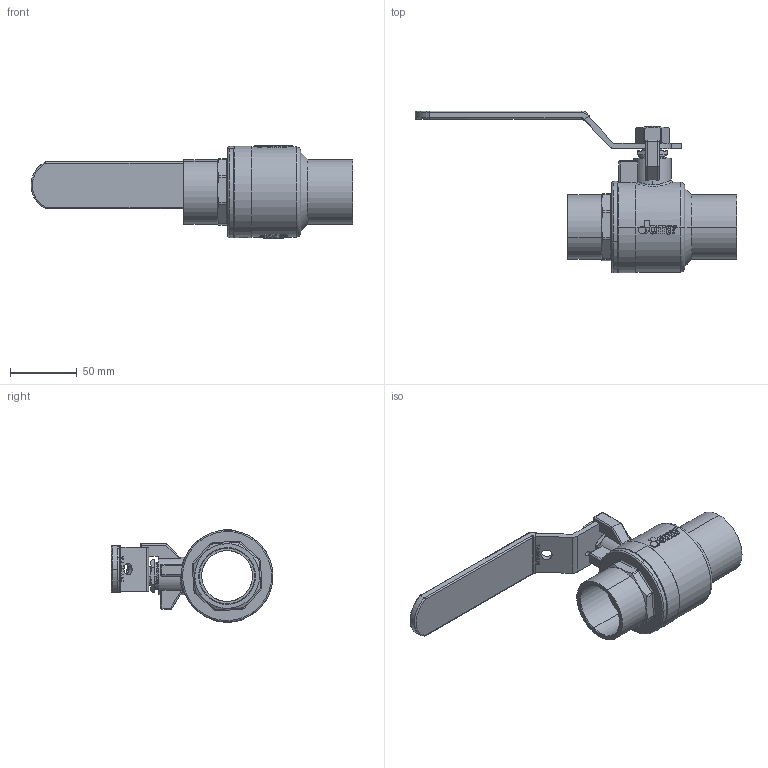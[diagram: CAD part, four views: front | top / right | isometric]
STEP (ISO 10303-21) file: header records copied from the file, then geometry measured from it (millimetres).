
FILE_DESCRIPTION (( 'STEP AP203' ), '1' );
FILE_NAME ('ABL717-無掛鎖-1.5''''JOMAR球閥CxC組合-無鉛無插溝-2025.STEP', '2025-06-25T07:09:48', ( '' ), ( '' ), 'SwSTEP 2.0', 'SolidWorks 2018', '' );
FILE_SCHEMA (( 'CONFIG_CONTROL_DESIGN' ));
Length unit declared in the file: millimetre
Products named in the file (13): CBL238; BBL717-1.5''''JOMAR球閥體-CxC-無鉛-端面無插溝; BBL717A-1.5''JOMAR球閥-CxC帽蓋-無鉛-端面無插溝 -減肉; RBL267; EBL307; DN40-DN50-CBL717-無掛鎖把手組合-白色膠套 S-200CSSG; GBL218; TBL268A; ABL717-µL±¾Âê-1.5''''JOMAR²y»ÖCxC²Õ¦X-µL¹]µL´¡·¾-2025; EBL208C; DN50-CBL238白色膠套-S-200CSSG; EBL208B; NBL268
Assembly tree (13 placements, depth 3):
  ABL717-µL±¾Âê-1.5''''JOMAR²y»ÖCxC²Õ¦X-µL¹]µL´¡·¾-2025
    BBL717-1.5''''JOMAR球閥體-CxC-無鉛-端面無插溝
    RBL267
    EBL208C
    GBL218
    EBL208B
    TBL268A
    BBL717A-1.5''JOMAR球閥-CxC帽蓋-無鉛-端面無插溝 -減肉
    DN40-DN50-CBL717-無掛鎖把手組合-白色膠套 S-200CSSG
      CBL238
      DN50-CBL238白色膠套-S-200CSSG
    NBL268
    EBL307  x2
Bounding box: 240.55 x 120.96 x 69 mm (x, y, z)
Volume: 213302.3 mm3; surface area: 121956.9 mm2
Topology: 12 solids, 12 shells, 2255 faces, 6018 edges, 3964 vertices
Faces by surface type: plane 1175, bspline 662, cylinder 298, cone 68, torus 38, sphere 14
Entity records: 116244 total; most frequent: CARTESIAN_POINT 64050, ORIENTED_EDGE 11960, DIRECTION 7991, EDGE_CURVE 5980, VERTEX_POINT 3944, LINE 3693, VECTOR 3693, EDGE_LOOP 2452
